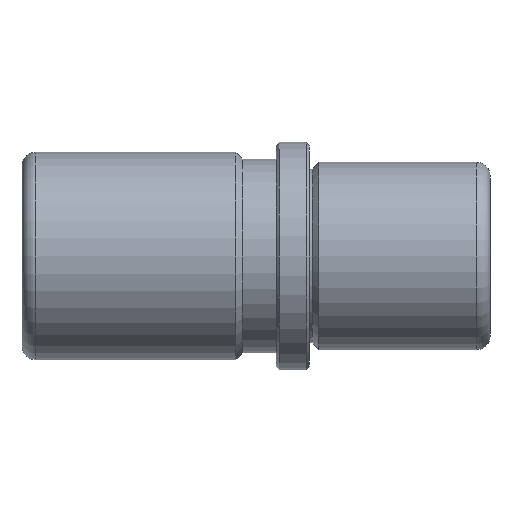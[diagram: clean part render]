
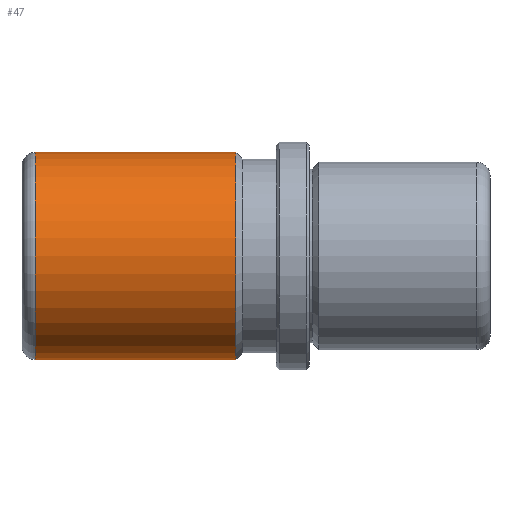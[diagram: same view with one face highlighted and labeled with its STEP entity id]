
A CAD part, front view. The second image highlights one B-rep face of the part: STEP entity #47.
In plain terms, the highlighted cylindrical face has radius 15.5 mm (diameter 31 mm), a full revolution.
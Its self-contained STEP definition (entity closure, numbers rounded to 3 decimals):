
#47 = ADVANCED_FACE( '', ( #108, #109, #110 ), #111, .T. );
#108 = FACE_OUTER_BOUND( '', #201, .T. );
#109 = FACE_BOUND( '', #202, .T. );
#110 = FACE_OUTER_BOUND( '', #203, .T. );
#111 = CYLINDRICAL_SURFACE( '', #204, 15.5 );
#201 = EDGE_LOOP( '', ( #290 ) );
#202 = EDGE_LOOP( '', ( #291 ) );
#203 = EDGE_LOOP( '', ( #292 ) );
#204 = AXIS2_PLACEMENT_3D( '', #293, #294, #295 );
#290 = ORIENTED_EDGE( '', *, *, #415, .T. );
#291 = ORIENTED_EDGE( '', *, *, #416, .T. );
#292 = ORIENTED_EDGE( '', *, *, #417, .F. );
#293 = CARTESIAN_POINT( '', ( 27., 0., 0. ) );
#294 = DIRECTION( '', ( -1., 0., 0. ) );
#295 = DIRECTION( '', ( 0., 0., -1. ) );
#415 = EDGE_CURVE( '', #460, #460, #461, .T. );
#416 = EDGE_CURVE( '', #462, #462, #463, .T. );
#417 = EDGE_CURVE( '', #464, #464, #465, .T. );
#460 = VERTEX_POINT( '', #525 );
#461 = CIRCLE( '', #526, 15.5 );
#462 = VERTEX_POINT( '', #527 );
#463 = B_SPLINE_CURVE_WITH_KNOTS( '', 3, ( #528, #529, #530, #531, #532, #533, #534, #535, #536, #537, #538, #539, #540, #541, #542, #543, #544, #545, #546, #547, #548, #549, #550, #551, #552, #553, #554, #555, #556, #557, #558, #559, #560, #561, #562, #563, #564, #565, #566, #567, #568, #569, #570, #571, #572, #573, #574, #575, #576, #577, #578, #579, #580, #581, #582, #583, #584, #585, #586, #587 ), .UNSPECIFIED., .T., .F., ( 2, 2, 2, 2, 2, 2, 2, 2, 2, 2, 2, 2, 2, 2, 2, 2, 2, 2, 2, 2, 2, 2, 2, 2, 2, 2, 2, 2, 2, 2, 2, 2 ), ( 0., 0., 0., 0.001, 0.001, 0.002, 0.003, 0.003, 0.004, 0.004, 0.005, 0.005, 0.006, 0.006, 0.007, 0.007, 0.008, 0.009, 0.009, 0.01, 0.01, 0.011, 0.011, 0.012, 0.012, 0.013, 0.013, 0.013, 0.014, 0.015, 0.015, 0.016 ), .UNSPECIFIED. );
#464 = VERTEX_POINT( '', #588 );
#465 = CIRCLE( '', #589, 15.5 );
#525 = CARTESIAN_POINT( '', ( -41., 0., -15.5 ) );
#526 = AXIS2_PLACEMENT_3D( '', #706, #707, #708 );
#527 = CARTESIAN_POINT( '', ( -18., 15.304, -2.459 ) );
#528 = CARTESIAN_POINT( '', ( -18.163, 15.304, -2.459 ) );
#529 = CARTESIAN_POINT( '', ( -17.837, 15.304, -2.459 ) );
#530 = CARTESIAN_POINT( '', ( -17.677, 15.306, -2.443 ) );
#531 = CARTESIAN_POINT( '', ( -17.363, 15.316, -2.38 ) );
#532 = CARTESIAN_POINT( '', ( -17.207, 15.324, -2.333 ) );
#533 = CARTESIAN_POINT( '', ( -16.909, 15.342, -2.209 ) );
#534 = CARTESIAN_POINT( '', ( -16.768, 15.353, -2.133 ) );
#535 = CARTESIAN_POINT( '', ( -16.501, 15.376, -1.955 ) );
#536 = CARTESIAN_POINT( '', ( -16.375, 15.389, -1.851 ) );
#537 = CARTESIAN_POINT( '', ( -16.035, 15.428, -1.512 ) );
#538 = CARTESIAN_POINT( '', ( -15.852, 15.453, -1.238 ) );
#539 = CARTESIAN_POINT( '', ( -15.668, 15.48, -0.794 ) );
#540 = CARTESIAN_POINT( '', ( -15.621, 15.488, -0.639 ) );
#541 = CARTESIAN_POINT( '', ( -15.557, 15.497, -0.322 ) );
#542 = CARTESIAN_POINT( '', ( -15.542, 15.5, -0.162 ) );
#543 = CARTESIAN_POINT( '', ( -15.541, 15.5, 0.159 ) );
#544 = CARTESIAN_POINT( '', ( -15.557, 15.497, 0.322 ) );
#545 = CARTESIAN_POINT( '', ( -15.62, 15.488, 0.638 ) );
#546 = CARTESIAN_POINT( '', ( -15.667, 15.481, 0.791 ) );
#547 = CARTESIAN_POINT( '', ( -15.79, 15.462, 1.089 ) );
#548 = CARTESIAN_POINT( '', ( -15.867, 15.451, 1.233 ) );
#549 = CARTESIAN_POINT( '', ( -16.045, 15.428, 1.499 ) );
#550 = CARTESIAN_POINT( '', ( -16.147, 15.415, 1.623 ) );
#551 = CARTESIAN_POINT( '', ( -16.376, 15.389, 1.852 ) );
#552 = CARTESIAN_POINT( '', ( -16.499, 15.377, 1.954 ) );
#553 = CARTESIAN_POINT( '', ( -16.765, 15.353, 2.132 ) );
#554 = CARTESIAN_POINT( '', ( -16.909, 15.342, 2.209 ) );
#555 = CARTESIAN_POINT( '', ( -17.207, 15.324, 2.333 ) );
#556 = CARTESIAN_POINT( '', ( -17.36, 15.316, 2.379 ) );
#557 = CARTESIAN_POINT( '', ( -17.675, 15.306, 2.442 ) );
#558 = CARTESIAN_POINT( '', ( -17.838, 15.304, 2.458 ) );
#559 = CARTESIAN_POINT( '', ( -18.32, 15.304, 2.459 ) );
#560 = CARTESIAN_POINT( '', ( -18.644, 15.314, 2.394 ) );
#561 = CARTESIAN_POINT( '', ( -19.088, 15.342, 2.21 ) );
#562 = CARTESIAN_POINT( '', ( -19.231, 15.353, 2.134 ) );
#563 = CARTESIAN_POINT( '', ( -19.5, 15.377, 1.955 ) );
#564 = CARTESIAN_POINT( '', ( -19.623, 15.389, 1.853 ) );
#565 = CARTESIAN_POINT( '', ( -19.85, 15.415, 1.627 ) );
#566 = CARTESIAN_POINT( '', ( -19.954, 15.428, 1.501 ) );
#567 = CARTESIAN_POINT( '', ( -20.132, 15.451, 1.234 ) );
#568 = CARTESIAN_POINT( '', ( -20.208, 15.462, 1.093 ) );
#569 = CARTESIAN_POINT( '', ( -20.332, 15.48, 0.795 ) );
#570 = CARTESIAN_POINT( '', ( -20.379, 15.488, 0.639 ) );
#571 = CARTESIAN_POINT( '', ( -20.442, 15.497, 0.325 ) );
#572 = CARTESIAN_POINT( '', ( -20.458, 15.5, 0.164 ) );
#573 = CARTESIAN_POINT( '', ( -20.459, 15.5, -0.16 ) );
#574 = CARTESIAN_POINT( '', ( -20.443, 15.497, -0.32 ) );
#575 = CARTESIAN_POINT( '', ( -20.38, 15.488, -0.635 ) );
#576 = CARTESIAN_POINT( '', ( -20.333, 15.48, -0.792 ) );
#577 = CARTESIAN_POINT( '', ( -20.21, 15.462, -1.089 ) );
#578 = CARTESIAN_POINT( '', ( -20.135, 15.452, -1.23 ) );
#579 = CARTESIAN_POINT( '', ( -19.956, 15.428, -1.498 ) );
#580 = CARTESIAN_POINT( '', ( -19.853, 15.415, -1.624 ) );
#581 = CARTESIAN_POINT( '', ( -19.514, 15.377, -1.964 ) );
#582 = CARTESIAN_POINT( '', ( -19.24, 15.351, -2.147 ) );
#583 = CARTESIAN_POINT( '', ( -18.796, 15.324, -2.331 ) );
#584 = CARTESIAN_POINT( '', ( -18.641, 15.316, -2.379 ) );
#585 = CARTESIAN_POINT( '', ( -18.323, 15.306, -2.443 ) );
#586 = CARTESIAN_POINT( '', ( -18.163, 15.304, -2.459 ) );
#587 = CARTESIAN_POINT( '', ( -17.837, 15.304, -2.459 ) );
#588 = CARTESIAN_POINT( '', ( -11., 0., -15.5 ) );
#589 = AXIS2_PLACEMENT_3D( '', #709, #710, #711 );
#706 = CARTESIAN_POINT( '', ( -41., 0., 0. ) );
#707 = DIRECTION( '', ( 1., 0., 0. ) );
#708 = DIRECTION( '', ( 0., 0., -1. ) );
#709 = CARTESIAN_POINT( '', ( -11., 0., 0. ) );
#710 = DIRECTION( '', ( 1., 0., 0. ) );
#711 = DIRECTION( '', ( 0., 0., -1. ) );
